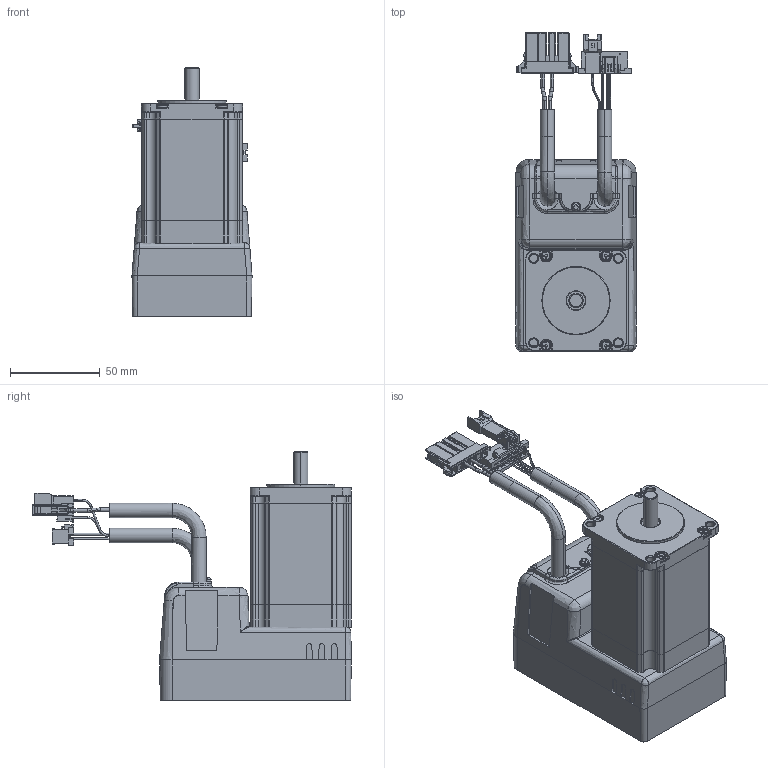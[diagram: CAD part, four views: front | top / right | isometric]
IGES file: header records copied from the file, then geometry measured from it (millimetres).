
Start section: SolidWorks IGES file using analytic representation for surfaces
Global section: file name: C:\3D---CAD_liuWorks\CM＊\CM2\ホームページー用向け\CM2-□-56B20C1.IGS; native system: SolidWorks 2012; preprocessor: SolidWorks 2012; author: 3DCAD; date: 140225.132446; units: millimetre
Bounding box: 67 x 177.8 x 139.2 mm (x, y, z)
Surface area: 78392.5 mm2 (no closed solid volume)
Topology: 0 solids, 0 shells, 1660 faces, 12088 edges, 12078 vertices
Faces by surface type: bspline 1170, revolution 490
